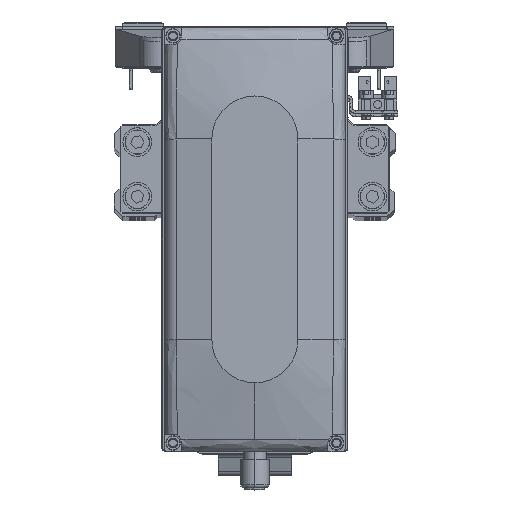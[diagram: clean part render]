
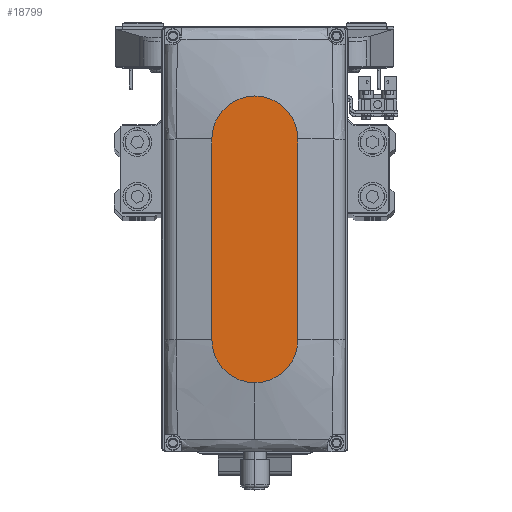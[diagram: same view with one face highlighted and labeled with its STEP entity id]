
A CAD part, top view. The second image highlights one B-rep face of the part: STEP entity #18799.
In plain terms, the highlighted planar face has unit normal (0, 0, 1).
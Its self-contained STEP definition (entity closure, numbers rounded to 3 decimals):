
#2070 = CARTESIAN_POINT ( 'NONE',  ( 35., 0., 35. ) ) ;
#2590 = CIRCLE ( 'NONE', #29089, 15. ) ;
#3695 = CARTESIAN_POINT ( 'NONE',  ( -35., 0., 35. ) ) ;
#4239 = CARTESIAN_POINT ( 'NONE',  ( -35., -15., 35. ) ) ;
#4727 = VERTEX_POINT ( 'NONE', #4239 ) ;
#4850 = CARTESIAN_POINT ( 'NONE',  ( 35., 0., 35. ) ) ;
#6181 = EDGE_CURVE ( 'NONE', #28232, #40542, #27869, .T. ) ;
#7431 = AXIS2_PLACEMENT_3D ( 'NONE', #2070, #16562, #31008 ) ;
#8589 = DIRECTION ( 'NONE',  ( 1., 0., 0. ) ) ;
#11412 = CARTESIAN_POINT ( 'NONE',  ( -35., -15., 35. ) ) ;
#12152 = PLANE ( 'NONE',  #34033 ) ;
#12249 = DIRECTION ( 'NONE',  ( -1., 0., 0. ) ) ;
#12345 = EDGE_CURVE ( 'NONE', #4727, #28232, #43863, .T. ) ;
#13571 = VECTOR ( 'NONE', #25870, 1000. ) ;
#14211 = AXIS2_PLACEMENT_3D ( 'NONE', #3695, #18158, #32596 ) ;
#16475 = CARTESIAN_POINT ( 'NONE',  ( 35., 15., 35. ) ) ;
#16562 = DIRECTION ( 'NONE',  ( 0., 0., 1. ) ) ;
#16592 = CARTESIAN_POINT ( 'NONE',  ( -35., 15., 35. ) ) ;
#16879 = EDGE_CURVE ( 'NONE', #17532, #4727, #34642, .T. ) ;
#17532 = VERTEX_POINT ( 'NONE', #16592 ) ;
#18158 = DIRECTION ( 'NONE',  ( 0., 0., 1. ) ) ;
#18799 = ADVANCED_FACE ( 'NONE', ( #44595 ), #12152, .T. ) ;
#19306 = DIRECTION ( 'NONE',  ( 0., 0., 1. ) ) ;
#19772 = VECTOR ( 'NONE', #12249, 1000. ) ;
#20056 = ORIENTED_EDGE ( 'NONE', *, *, #12345, .T. ) ;
#20662 = CARTESIAN_POINT ( 'NONE',  ( 35., -15., 35. ) ) ;
#21923 = ORIENTED_EDGE ( 'NONE', *, *, #23459, .T. ) ;
#22773 = ORIENTED_EDGE ( 'NONE', *, *, #26425, .T. ) ;
#23459 = EDGE_CURVE ( 'NONE', #26513, #17532, #30258, .T. ) ;
#25870 = DIRECTION ( 'NONE',  ( 1., 0., 0. ) ) ;
#26425 = EDGE_CURVE ( 'NONE', #40542, #26513, #2590, .T. ) ;
#26513 = VERTEX_POINT ( 'NONE', #16475 ) ;
#26608 = CARTESIAN_POINT ( 'NONE',  ( 0., 0., 35. ) ) ;
#27217 = ORIENTED_EDGE ( 'NONE', *, *, #16879, .T. ) ;
#27869 = CIRCLE ( 'NONE', #7431, 15. ) ;
#28232 = VERTEX_POINT ( 'NONE', #20662 ) ;
#29089 = AXIS2_PLACEMENT_3D ( 'NONE', #4850, #19306, #33751 ) ;
#30258 = LINE ( 'NONE', #44695, #19772 ) ;
#31008 = DIRECTION ( 'NONE',  ( 1., 0., 0. ) ) ;
#32596 = DIRECTION ( 'NONE',  ( 1., 0., 0. ) ) ;
#33751 = DIRECTION ( 'NONE',  ( 1., 0., 0. ) ) ;
#34033 = AXIS2_PLACEMENT_3D ( 'NONE', #26608, #41039, #8589 ) ;
#34642 = CIRCLE ( 'NONE', #14211, 15. ) ;
#35236 = ORIENTED_EDGE ( 'NONE', *, *, #6181, .T. ) ;
#38089 = EDGE_LOOP ( 'NONE', ( #21923, #27217, #20056, #35236, #22773 ) ) ;
#40542 = VERTEX_POINT ( 'NONE', #41769 ) ;
#41039 = DIRECTION ( 'NONE',  ( 0., 0., 1. ) ) ;
#41769 = CARTESIAN_POINT ( 'NONE',  ( 50., 0., 35. ) ) ;
#43863 = LINE ( 'NONE', #11412, #13571 ) ;
#44595 = FACE_OUTER_BOUND ( 'NONE', #38089, .T. ) ;
#44695 = CARTESIAN_POINT ( 'NONE',  ( -35., 15., 35. ) ) ;
